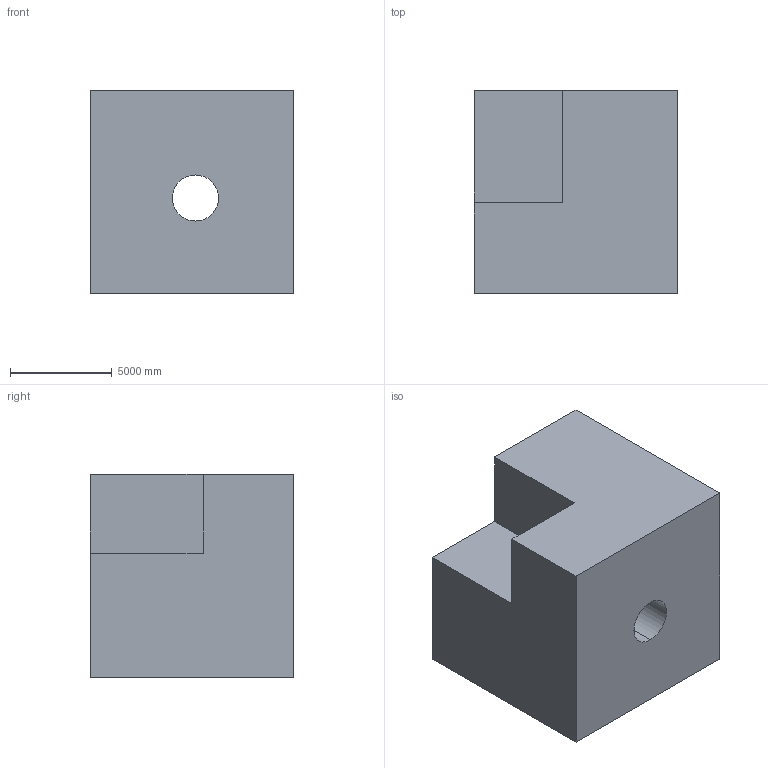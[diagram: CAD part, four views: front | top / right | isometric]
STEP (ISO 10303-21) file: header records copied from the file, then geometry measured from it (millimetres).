
FILE_DESCRIPTION (( 'STEP AP203' ), '1' );
FILE_NAME ('1141.STEP', '2022-08-18T12:55:24', ( 'user' ), ( '' ), 'SwSTEP 2.0', 'SolidWorks 2021', '' );
FILE_SCHEMA (( 'CONFIG_CONTROL_DESIGN' ));
Length unit declared in the file: centimetre
Products named in the file (1): 1141
Bounding box: 10000 x 10000 x 10000 mm (x, y, z)
Volume: 866125646938.7 mm3; surface area: 663161823.7 mm2
Topology: 1 solids, 1 shells, 11 faces, 27 edges, 18 vertices
Faces by surface type: plane 9, cylinder 2
Entity records: 406 total; most frequent: CARTESIAN_POINT 57, DIRECTION 55, ORIENTED_EDGE 54, EDGE_CURVE 27, VECTOR 23, LINE 23, VERTEX_POINT 18, AXIS2_PLACEMENT_3D 16
